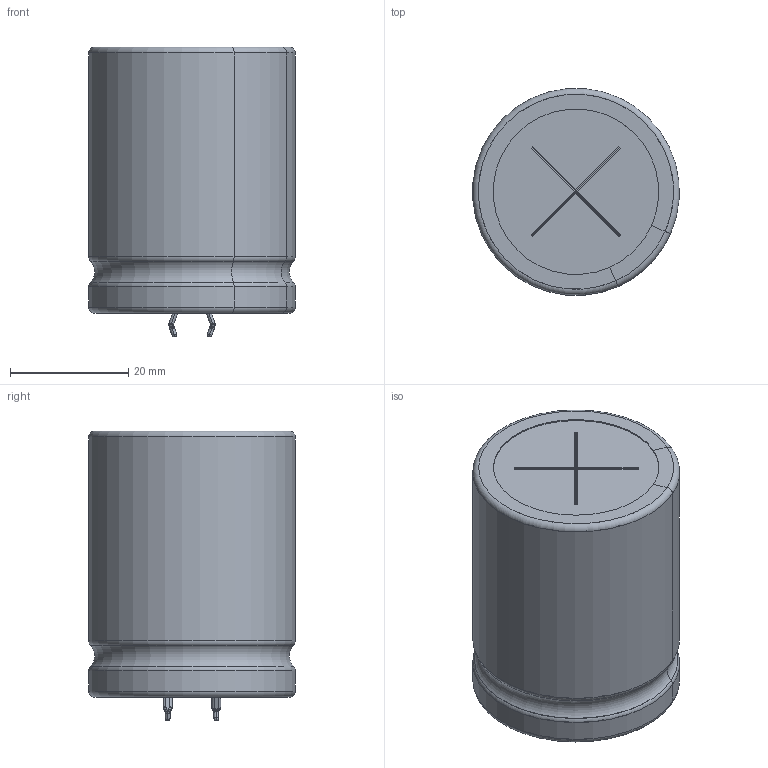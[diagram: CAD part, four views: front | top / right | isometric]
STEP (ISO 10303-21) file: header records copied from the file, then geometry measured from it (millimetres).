
FILE_DESCRIPTION(/* description */ (''),/* implementation_level */ '2;1');
FILE_NAME(/* name */ '35x45_Snap.stp',/* time_stamp */ '2017-09-11T16:37:25+09:00',/* author */ (''),/* organization */ (''),/* preprocessor_version */ 'ST-DEVELOPER v16',/* originating_system */ 'SIEMENS PLM Software NX 11.0',/* authorisation */ '');
FILE_SCHEMA (('AUTOMOTIVE_DESIGN { 1 0 10303 214 3 1 1 1 }'));
Length unit declared in the file: millimetre
Products named in the file (1): 35x45_Snap_0
Bounding box: 34.9 x 34.9 x 49.02 mm (x, y, z)
Volume: 42699.2 mm3; surface area: 17983.5 mm2
Topology: 5 solids, 5 shells, 208 faces, 523 edges, 310 vertices
Faces by surface type: cylinder 76, plane 75, torus 25, sphere 20, bspline 12
Full cylindrical faces by diameter (mm): 4 x2, 34.6 x2
Entity records: 6775 total; most frequent: CARTESIAN_POINT 1265, DIRECTION 1128, ORIENTED_EDGE 988, EDGE_CURVE 494, AXIS2_PLACEMENT_3D 437, VERTEX_POINT 310, LINE 254, VECTOR 254
